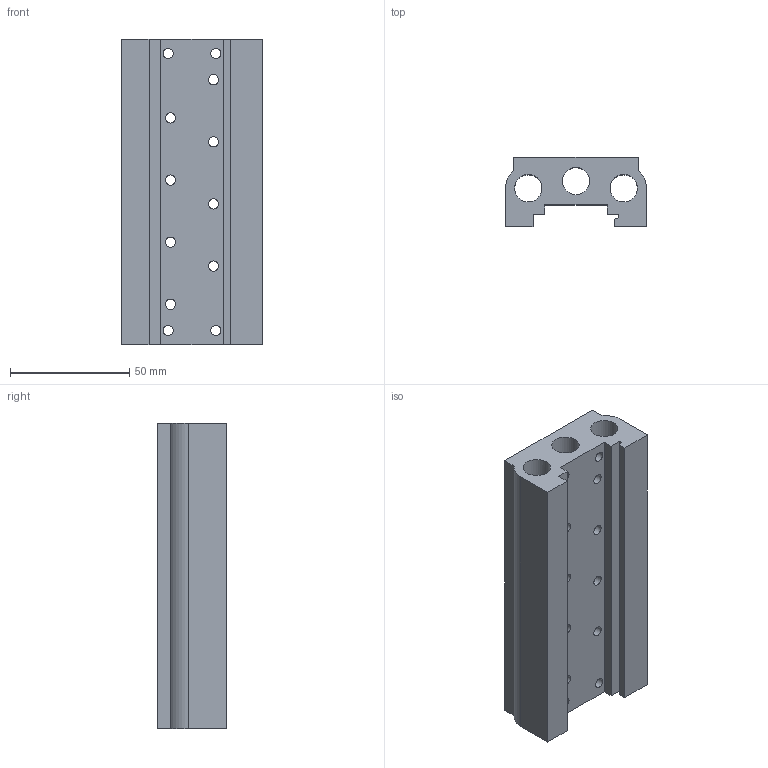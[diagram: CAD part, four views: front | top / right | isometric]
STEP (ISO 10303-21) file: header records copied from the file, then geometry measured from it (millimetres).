
FILE_DESCRIPTION((''),'2;1');
FILE_NAME('K:\A-Roberto\_Inventor\Rev.Librerie\TECNOECO\T488_ ##\T488_ 04.stp','2006-10-06T08:54:44',('rivolro1'),(''),'Autodesk Inventor 11','Autodesk Inventor 11','');
FILE_SCHEMA(('AUTOMOTIVE_DESIGN { 1 0 10303 214 1 1 1 1 }'));
Length unit declared in the file: millimetre
Products named in the file (1): T488_ 04
Bounding box: 59 x 29 x 128 mm (x, y, z)
Volume: 127704.5 mm3; surface area: 45535.4 mm2
Topology: 1 solids, 1 shells, 111 faces, 259 edges, 170 vertices
Faces by surface type: bspline 88, plane 18, cylinder 5
Full cylindrical faces by diameter (mm): 11.5 x3
Entity records: 4608 total; most frequent: CARTESIAN_POINT 2551, ORIENTED_EDGE 360, DIRECTION 318, EDGE_LOOP 248, EDGE_CURVE 180, VERTEX_POINT 154, FACE_BOUND 137, AXIS2_PLACEMENT_3D 134
